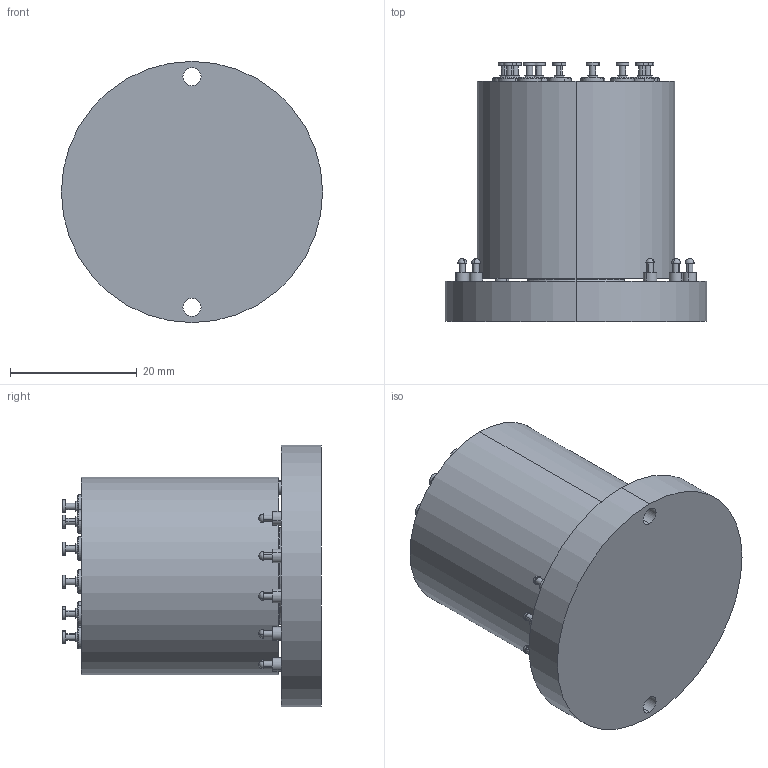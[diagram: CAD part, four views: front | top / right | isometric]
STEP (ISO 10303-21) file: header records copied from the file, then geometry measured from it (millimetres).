
FILE_DESCRIPTION (( 'STEP AP214' ), '1' );
FILE_NAME ('1016077.STEP', '2020-07-13T15:48:19', ( '' ), ( '' ), 'SwSTEP 2.0', 'SolidWorks 2019', '' );
FILE_SCHEMA (( 'AUTOMOTIVE_DESIGN' ));
Length unit declared in the file: inch
Products named in the file (1): 1016077
Bounding box: 41.26 x 40.91 x 41.26 mm (x, y, z)
Volume: 32313.7 mm3; surface area: 8328.3 mm2
Topology: 1 solids, 1 shells, 743 faces, 1855 edges, 1226 vertices
Faces by surface type: plane 378, bspline 171, cylinder 152, cone 20, sphere 20, torus 2
Entity records: 30907 total; most frequent: CARTESIAN_POINT 14120, ORIENTED_EDGE 3630, DIRECTION 2987, EDGE_CURVE 1815, VERTEX_POINT 1206, LINE 1105, VECTOR 1105, AXIS2_PLACEMENT_3D 941
